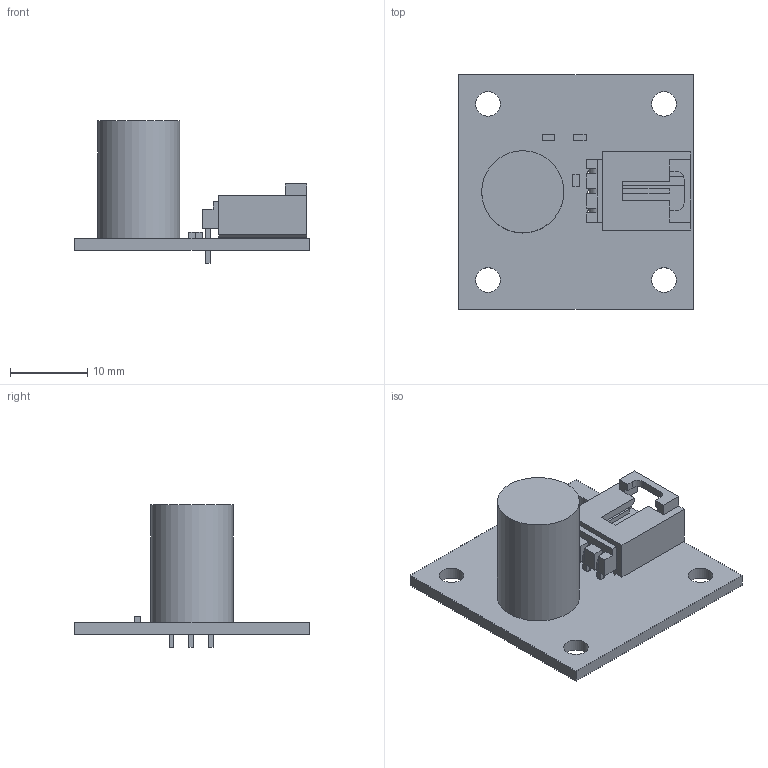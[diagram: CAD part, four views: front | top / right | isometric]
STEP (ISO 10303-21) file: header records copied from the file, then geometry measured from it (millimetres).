
FILE_DESCRIPTION(('Open CASCADE Model'),'2;1');
FILE_NAME('Open CASCADE Shape Model','2010-10-28T08:55:09',('Author'),( 'Open CASCADE'),'Open CASCADE STEP processor 6.2','Open CASCADE 6.2' ,'Unknown');
FILE_SCHEMA(('AUTOMOTIVE_DESIGN { 1 0 10303 214 1 1 1 1 }'));
Length unit declared in the file: millimetre
Products named in the file (16): PCB; Board; R1; 478789824; Extruded; J2; 506483648; Cylinder; J1; 705530002; Open CASCADE STEP translator 6.2 10.4.1.1; Open CASCADE STEP translator 6.2 10.4.1.2; C2; 478788672; C1
Assembly tree (16 placements, depth 4):
  PCB
    Board
    R1
      478789824
        Extruded
    J2
      506483648
        Cylinder
    J1
      705530002
        Open CASCADE STEP translator 6.2 10.4.1.1
        Open CASCADE STEP translator 6.2 10.4.1.2
    C2
      478788672
        Extruded
    C1
      478789824
        Extruded
Bounding box: 30.48 x 30.48 x 18.46 mm (x, y, z)
Volume: 3173.8 mm3; surface area: 3570.8 mm2
Topology: 6 solids, 6 shells, 150 faces, 395 edges, 268 vertices
Faces by surface type: plane 131, cylinder 19
Full cylindrical faces by diameter (mm): 0.889 x3, 0.965 x3, 3.175 x4, 10.668 x1
Entity records: 9614 total; most frequent: CARTESIAN_POINT 1634, DIRECTION 1455, LINE 1015, VECTOR 1015, ORIENTED_EDGE 748, PCURVE 748, DEFINITIONAL_REPRESENTATION 748, EDGE_CURVE 374
